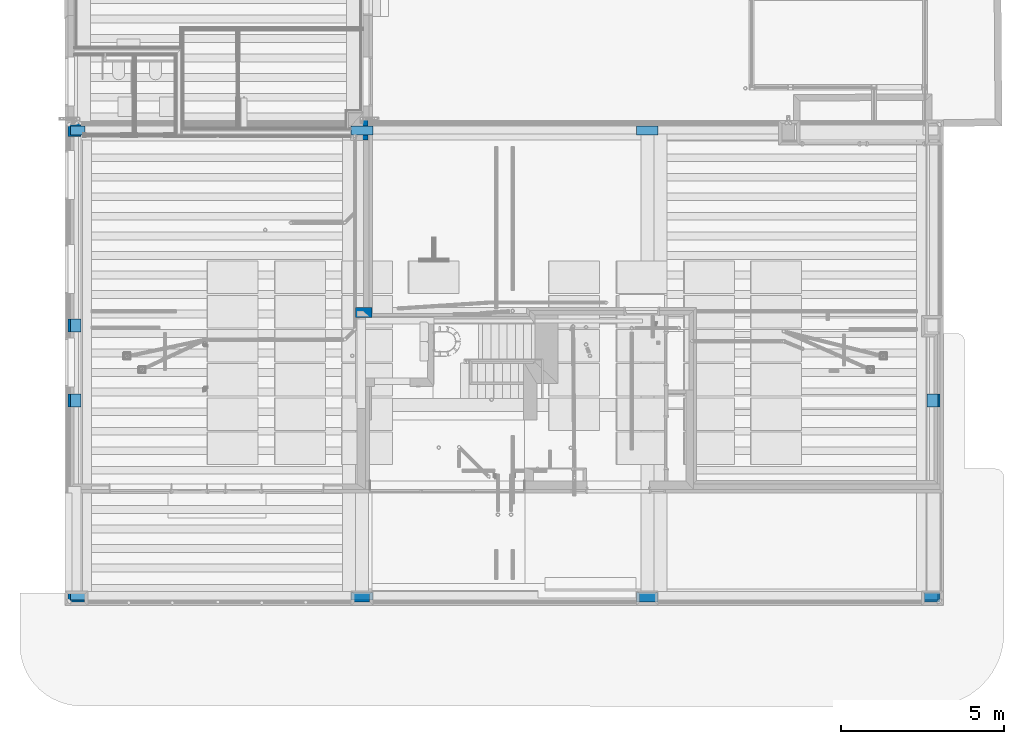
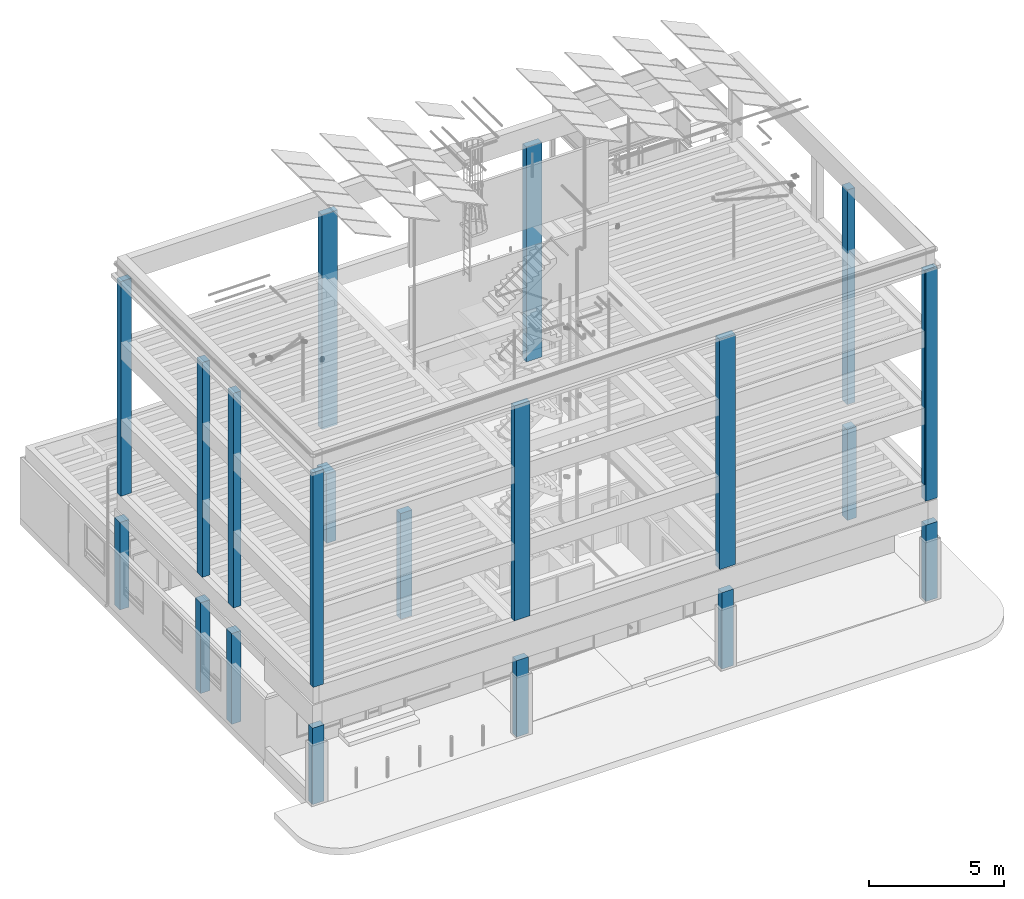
# One storey, part 1 of 106: 21 columns.
"""IFC2X3 building model written with IfcOpenShell, lengths in metres."""

from ifc_helpers import new_model, entity, si_unit, converted_unit, derived_unit, money_unit, direction, frame, frame_2d, origin_with_axes, place, context, subcontext, project, spatial, rectangle, extrude, material, type_object, element, save


model = new_model("IFC2X3")

# Units and contexts
model_context = context("Model", 3, precision=1e-05, world=origin_with_axes(), true_north=direction((0.0, 1.0)))
body_context = subcontext(model_context, "Body", "Model", "MODEL_VIEW", scale=1.0)
ifc_project = project(units=[si_unit("LENGTHUNIT", "METRE"), si_unit("AREAUNIT", "SQUARE_METRE"), si_unit("VOLUMEUNIT", "CUBIC_METRE"), si_unit("ABSORBEDDOSEUNIT", "GRAY"), si_unit("AMOUNTOFSUBSTANCEUNIT", "MOLE"), si_unit("DOSEEQUIVALENTUNIT", "SIEVERT"), si_unit("ELECTRICCAPACITANCEUNIT", "FARAD"), si_unit("ELECTRICCHARGEUNIT", "COULOMB"), si_unit("ELECTRICCONDUCTANCEUNIT", "SIEMENS"), si_unit("ELECTRICCURRENTUNIT", "AMPERE"), si_unit("ELECTRICRESISTANCEUNIT", "OHM"), si_unit("ELECTRICVOLTAGEUNIT", "VOLT"), si_unit("ENERGYUNIT", "JOULE"), si_unit("FORCEUNIT", "NEWTON"), si_unit("FREQUENCYUNIT", "HERTZ"), si_unit("ILLUMINANCEUNIT", "LUX"), si_unit("INDUCTANCEUNIT", "HENRY"), si_unit("LUMINOUSFLUXUNIT", "LUMEN"), si_unit("LUMINOUSINTENSITYUNIT", "CANDELA"), si_unit("MAGNETICFLUXDENSITYUNIT", "TESLA"), si_unit("MAGNETICFLUXUNIT", "WEBER"), si_unit("MASSUNIT", "GRAM"), converted_unit("PLANEANGLEUNIT", "degree", entity("IfcReal", 0.0174532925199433), si_unit("PLANEANGLEUNIT", "RADIAN"), dimensions=[0, 0, 0, 0, 0, 0, 0]), si_unit("POWERUNIT", "WATT"), si_unit("PRESSUREUNIT", "PASCAL"), si_unit("RADIOACTIVITYUNIT", "BECQUEREL"), si_unit("SOLIDANGLEUNIT", "STERADIAN"), si_unit("THERMODYNAMICTEMPERATUREUNIT", "KELVIN"), si_unit("TIMEUNIT", "SECOND"), derived_unit("ACCELERATIONUNIT", [(si_unit("LENGTHUNIT", "METRE"), 1), (si_unit("TIMEUNIT", "SECOND"), -2)]), derived_unit("ANGULARVELOCITYUNIT", [(converted_unit("PLANEANGLEUNIT", "degree", entity("IfcReal", 0.0174532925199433), si_unit("PLANEANGLEUNIT", "RADIAN"), dimensions=[0, 0, 0, 0, 0, 0, 0]), 1), (si_unit("TIMEUNIT", "SECOND"), -1)]), derived_unit("CURVATUREUNIT", [(converted_unit("PLANEANGLEUNIT", "degree", entity("IfcReal", 0.0174532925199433), si_unit("PLANEANGLEUNIT", "RADIAN"), dimensions=[0, 0, 0, 0, 0, 0, 0]), 1), (si_unit("LENGTHUNIT", "METRE"), -1)]), derived_unit("DYNAMICVISCOSITYUNIT", [(si_unit("PRESSUREUNIT", "PASCAL"), 1), (si_unit("TIMEUNIT", "SECOND"), 1)]), derived_unit("HEATFLUXDENSITYUNIT", [(si_unit("POWERUNIT", "WATT"), 1), (si_unit("LENGTHUNIT", "METRE"), -2)]), derived_unit("HEATINGVALUEUNIT", [(si_unit("ENERGYUNIT", "JOULE"), 1), (si_unit("MASSUNIT", "GRAM"), -1)]), derived_unit("INTEGERCOUNTRATEUNIT", [(si_unit("TIMEUNIT", "SECOND"), -1)]), derived_unit("IONCONCENTRATIONUNIT", [(si_unit("MASSUNIT", "GRAM"), 1), (si_unit("VOLUMEUNIT", "CUBIC_METRE"), -1)]), derived_unit("ISOTHERMALMOISTURECAPACITYUNIT", [(si_unit("VOLUMEUNIT", "CUBIC_METRE"), 1), (si_unit("MASSUNIT", "GRAM"), -1)]), derived_unit("KINEMATICVISCOSITYUNIT", [(si_unit("AREAUNIT", "SQUARE_METRE"), 1), (si_unit("TIMEUNIT", "SECOND"), -1)]), derived_unit("LINEARFORCEUNIT", [(si_unit("FORCEUNIT", "NEWTON"), 1), (si_unit("LENGTHUNIT", "METRE"), -1)]), derived_unit("LINEARMOMENTUNIT", [(si_unit("FORCEUNIT", "NEWTON"), 1), (si_unit("LENGTHUNIT", "METRE"), -1)]), derived_unit("LINEARSTIFFNESSUNIT", [(si_unit("FORCEUNIT", "NEWTON"), 1), (si_unit("LENGTHUNIT", "METRE"), -1)]), derived_unit("LINEARVELOCITYUNIT", [(si_unit("LENGTHUNIT", "METRE"), 1), (si_unit("TIMEUNIT", "SECOND"), -1)]), derived_unit("LUMINOUSINTENSITYDISTRIBUTIONUNIT", [(si_unit("LUMINOUSINTENSITYUNIT", "CANDELA"), 1), (si_unit("LUMINOUSFLUXUNIT", "LUMEN"), -1)]), derived_unit("MASSDENSITYUNIT", [(si_unit("MASSUNIT", "GRAM"), 1), (si_unit("VOLUMEUNIT", "CUBIC_METRE"), -1)]), derived_unit("MASSFLOWRATEUNIT", [(si_unit("MASSUNIT", "GRAM"), 1), (si_unit("TIMEUNIT", "SECOND"), -1)]), derived_unit("MASSPERLENGTHUNIT", [(si_unit("MASSUNIT", "GRAM"), 1), (si_unit("LENGTHUNIT", "METRE"), -1)]), derived_unit("MODULUSOFELASTICITYUNIT", [(si_unit("FORCEUNIT", "NEWTON"), 1), (si_unit("AREAUNIT", "SQUARE_METRE"), -1)]), derived_unit("MODULUSOFLINEARSUBGRADEREACTIONUNIT", [(si_unit("FORCEUNIT", "NEWTON"), 1), (si_unit("LENGTHUNIT", "METRE"), -2)]), derived_unit("MODULUSOFROTATIONALSUBGRADEREACTIONUNIT", [(si_unit("FORCEUNIT", "NEWTON"), 1), (si_unit("LENGTHUNIT", "METRE"), 1)]), derived_unit("MODULUSOFSUBGRADEREACTIONUNIT", [(si_unit("FORCEUNIT", "NEWTON"), 1), (si_unit("VOLUMEUNIT", "CUBIC_METRE"), -1)]), derived_unit("MOISTUREDIFFUSIVITYUNIT", [(si_unit("VOLUMEUNIT", "CUBIC_METRE"), 1), (si_unit("TIMEUNIT", "SECOND"), -1)]), derived_unit("MOLECULARWEIGHTUNIT", [(si_unit("MASSUNIT", "GRAM"), 1), (si_unit("AMOUNTOFSUBSTANCEUNIT", "MOLE"), -1)]), derived_unit("PLANARFORCEUNIT", [(si_unit("FORCEUNIT", "NEWTON"), 1), (si_unit("LENGTHUNIT", "METRE"), -2)]), derived_unit("ROTATIONALFREQUENCYUNIT", [(si_unit("TIMEUNIT", "SECOND"), -1)]), derived_unit("ROTATIONALMASSUNIT", [(si_unit("MASSUNIT", "GRAM"), 1), (si_unit("LENGTHUNIT", "METRE"), 2)]), derived_unit("ROTATIONALSTIFFNESSUNIT", [(si_unit("FORCEUNIT", "NEWTON"), 1), (si_unit("LENGTHUNIT", "METRE"), 1), (converted_unit("PLANEANGLEUNIT", "degree", entity("IfcReal", 0.0174532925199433), si_unit("PLANEANGLEUNIT", "RADIAN"), dimensions=[0, 0, 0, 0, 0, 0, 0]), -1)]), derived_unit("SECTIONAREAINTEGRALUNIT", [(si_unit("LENGTHUNIT", "METRE"), 5)]), derived_unit("SECTIONMODULUSUNIT", [(si_unit("LENGTHUNIT", "METRE"), 3)]), derived_unit("SHEARMODULUSUNIT", [(si_unit("FORCEUNIT", "NEWTON"), 1), (si_unit("AREAUNIT", "SQUARE_METRE"), -1)]), derived_unit("SOUNDPOWERUNIT", [(si_unit("ENERGYUNIT", "JOULE"), 1), (si_unit("TIMEUNIT", "SECOND"), -1)]), derived_unit("SPECIFICHEATCAPACITYUNIT", [(si_unit("FORCEUNIT", "NEWTON"), 1), (si_unit("MASSUNIT", "GRAM"), -1), (si_unit("THERMODYNAMICTEMPERATUREUNIT", "KELVIN"), -1)]), derived_unit("TEMPERATUREGRADIENTUNIT", [(si_unit("THERMODYNAMICTEMPERATUREUNIT", "KELVIN"), 1), (si_unit("LENGTHUNIT", "METRE"), -1)]), derived_unit("THERMALADMITTANCEUNIT", [(si_unit("POWERUNIT", "WATT"), 1), (si_unit("AREAUNIT", "SQUARE_METRE"), -1), (si_unit("THERMODYNAMICTEMPERATUREUNIT", "KELVIN"), -1)]), derived_unit("THERMALCONDUCTANCEUNIT", [(si_unit("POWERUNIT", "WATT"), 1), (si_unit("LENGTHUNIT", "METRE"), -1), (si_unit("THERMODYNAMICTEMPERATUREUNIT", "KELVIN"), -1)]), derived_unit("THERMALEXPANSIONCOEFFICIENTUNIT", [(si_unit("THERMODYNAMICTEMPERATUREUNIT", "KELVIN"), -1)]), derived_unit("THERMALRESISTANCEUNIT", [(si_unit("AREAUNIT", "SQUARE_METRE"), 1), (si_unit("POWERUNIT", "WATT"), -1)]), derived_unit("THERMALTRANSMITTANCEUNIT", [(si_unit("POWERUNIT", "WATT"), 1), (si_unit("AREAUNIT", "SQUARE_METRE"), -1), (si_unit("THERMODYNAMICTEMPERATUREUNIT", "KELVIN"), -1)]), derived_unit("TORQUEUNIT", [(si_unit("FORCEUNIT", "NEWTON"), 1), (si_unit("LENGTHUNIT", "METRE"), 1)]), derived_unit("VAPORPERMEABILITYUNIT", [(si_unit("MASSUNIT", "GRAM"), 1), (si_unit("TIMEUNIT", "SECOND"), -1)]), derived_unit("VOLUMETRICFLOWRATEUNIT", [(si_unit("VOLUMEUNIT", "CUBIC_METRE"), 1), (si_unit("TIMEUNIT", "SECOND"), -1)]), derived_unit("WARPINGCONSTANTUNIT", [(si_unit("LENGTHUNIT", "METRE"), 6)]), derived_unit("WARPINGMOMENTUNIT", [(si_unit("FORCEUNIT", "NEWTON"), 1), (si_unit("LENGTHUNIT", "METRE"), 2)]), money_unit("GBP")], contexts=[model_context])

# Site, building, storey
site_placement = place(None, origin_with_axes())
site = spatial("IfcSite", under=ifc_project, at=site_placement, Name="Site", CompositionType="ELEMENT")
building_placement = place(site_placement, origin_with_axes())
building = spatial("IfcBuilding", under=site, at=building_placement, Name="Building01", CompositionType="ELEMENT")
storey_placement = place(building_placement, origin_with_axes())
storey = spatial("IfcBuildingStorey", under=building, at=storey_placement, Name="GF", CompositionType="ELEMENT", Elevation=0.0)

# Columns
ifc_material = material(Name="A_BSUK_Columns_ReinforcedConcrete")
column_type_1 = type_object("IfcColumnType", Name="A-Columns-Concrete", PredefinedType="COLUMN")
column_1_placement = place(storey_placement, frame((0.1, 8.4, -0.145), z_axis=(0.0, 0.0, 1.0), x_axis=(1.0, 0.0, 0.0)))
element("IfcColumn", 1, at=column_1_placement, inside=storey, type_object=column_type_1, material=ifc_material, Name="A-Columns-Concrete", ObjectType="A-Columns-Concrete", context=body_context, shape_type="SweptSolid", body=[
    extrude(rectangle(XDim=0.4, YDim=0.4, at=frame_2d((0.2, 0.2), x_axis=(0.0, 1.0))), origin_with_axes(), (0.0, 0.0, 1.0), 4.115),
])
column_2_placement = place(storey_placement, frame((0.62, 14.45, 14.83), z_axis=(0.0, 0.0, -1.0), x_axis=(0.0, 1.0, 0.0)))
element("IfcColumn", 2, at=column_2_placement, inside=storey, type_object=column_type_1, material=ifc_material, Name="A-Columns-Concrete", ObjectType="A-Columns-Concrete", context=body_context, shape_type="SweptSolid", body=[
    extrude(rectangle(XDim=0.45, YDim=0.28, at=frame_2d((0.14, -0.225), x_axis=(0.0, -1.0))), origin_with_axes(), (0.0, 0.0, 1.0), 9.73),
])
for number, where, z_axis, x_axis, name in (
    (3, (0.1, 6.1, -0.145), (0.0, 0.0, 1.0), (1.0, 0.0, 0.0), "A-Columns-Concrete"),
    (4, (26.48, 6.1, -0.145), (0.0, 0.0, 1.0), (1.0, 0.0, 0.0), "A-Columns-Concrete"),
):
    element("IfcColumn", number, at=place(storey_placement, frame(where, z_axis=z_axis, x_axis=x_axis)), inside=storey, type_object=column_type_1, material=ifc_material, Name=name, ObjectType="A-Columns-Concrete", context=body_context, shape_type="SweptSolid", body=[
        extrude(rectangle(XDim=0.4, YDim=0.4, at=frame_2d((0.2, 0.2), x_axis=(0.0, 1.0))), origin_with_axes(), (0.0, 0.0, 1.0), 4.115),
    ])
column_3_placement = place(storey_placement, frame((0.6, 0.1, 3.32), z_axis=(0.0, 0.0, -1.0), x_axis=(0.0, 1.0, 0.0)))
element("IfcColumn", 5, at=column_3_placement, inside=storey, type_object=column_type_1, material=ifc_material, Name="A-Columns-Concrete", ObjectType="A-Columns-Concrete", context=body_context, shape_type="SweptSolid", body=[
    extrude(rectangle(XDim=0.5, YDim=0.3, at=frame_2d((0.15, -0.25), x_axis=(0.0, -1.0))), origin_with_axes(), (0.0, 0.0, 1.0), 3.465),
])
for number, where, z_axis, x_axis, name in (
    (6, (9.46, 14.73, 5.1), (0.0, 0.0, 1.0), (-1.0, 0.0, 0.0), "A-Columns-Concrete"),
    (7, (18.22, 14.73, 5.1), (0.0, 0.0, 1.0), (-1.0, 0.0, 0.0), "A-Columns-Concrete"),
):
    element("IfcColumn", number, at=place(storey_placement, frame(where, z_axis=z_axis, x_axis=x_axis)), inside=storey, type_object=column_type_1, material=ifc_material, Name=name, ObjectType="A-Columns-Concrete", context=body_context, shape_type="SweptSolid", body=[
        extrude(rectangle(XDim=0.28, YDim=0.67, at=frame_2d((0.335, 0.14), x_axis=(0.0, 1.0))), origin_with_axes(), (0.0, 0.0, 1.0), 9.73),
    ])
for number, where, z_axis, x_axis, name in (
    (8, (18.15, 0.1, 3.32), (0.0, 0.0, -1.0), (0.0, 1.0, 0.0), "A-Columns-Concrete"),
    (9, (9.35, 0.1, 3.32), (0.0, 0.0, -1.0), (0.0, 1.0, 0.0), "A-Columns-Concrete"),
    (10, (26.88, 0.1, 3.32), (0.0, 0.0, -1.0), (0.0, 1.0, 0.0), "A-Columns-Concrete"),
):
    element("IfcColumn", number, at=place(storey_placement, frame(where, z_axis=z_axis, x_axis=x_axis)), inside=storey, type_object=column_type_1, material=ifc_material, Name=name, ObjectType="A-Columns-Concrete", context=body_context, shape_type="SweptSolid", body=[
        extrude(rectangle(XDim=0.5, YDim=0.3, at=frame_2d((0.15, -0.25), x_axis=(0.0, -1.0))), origin_with_axes(), (0.0, 0.0, 1.0), 3.465),
    ])
column_4_placement = place(storey_placement, frame((8.903038, 14.299999, 0.0), z_axis=(0.0, 0.0, 1.0), x_axis=(1.0, 0.0, 0.0)))
element("IfcColumn", 11, at=column_4_placement, inside=storey, type_object=column_type_1, material=ifc_material, Name="A-Columns-Concrete", ObjectType="A-Columns-Concrete", context=body_context, shape_type="SweptSolid", body=[
    extrude(rectangle(XDim=0.7, YDim=0.4, at=frame_2d((0.2, 0.35), x_axis=(0.0, 1.0))), origin_with_axes(), (0.0, 0.0, 1.0), 3.135),
])
column_5_placement = place(storey_placement, frame((0.1, 14.4, 0.0), z_axis=(0.0, 0.0, 1.0), x_axis=(1.0, 0.0, 0.0)))
element("IfcColumn", 12, at=column_5_placement, inside=storey, type_object=column_type_1, material=ifc_material, Name="A-Columns-Concrete", ObjectType="A-Columns-Concrete", context=body_context, shape_type="SweptSolid", body=[
    extrude(rectangle(XDim=0.4, YDim=0.4, at=frame_2d((0.2, 0.2), x_axis=(0.0, 1.0))), origin_with_axes(), (0.0, 0.0, 1.0), 3.97),
])
column_6_placement = place(storey_placement, frame((26.48, 6.1, 5.1), z_axis=(0.0, 0.0, 1.0), x_axis=(1.0, 0.0, 0.0)))
element("IfcColumn", 13, at=column_6_placement, inside=storey, type_object=column_type_1, material=ifc_material, Name="A-Columns-Concrete", ObjectType="A-Columns-Concrete", context=body_context, shape_type="SweptSolid", body=[
    extrude(rectangle(XDim=0.4, YDim=0.33, at=frame_2d((0.165, 0.2), x_axis=(0.0, 1.0))), origin_with_axes(), (0.0, 0.0, 1.0), 9.73),
])
column_7_placement = place(storey_placement, frame((8.925, 9.147854, -0.145), z_axis=(0.0, 0.0, 1.0), x_axis=(0.0, -1.0, 0.0)))
element("IfcColumn", 14, at=column_7_placement, inside=storey, type_object=column_type_1, material=ifc_material, Name="A-Columns-Concrete", ObjectType="A-Columns-Concrete", context=body_context, shape_type="SweptSolid", body=[
    extrude(rectangle(XDim=0.5, YDim=0.3, at=frame_2d((0.15, 0.25), x_axis=(0.0, 1.0))), origin_with_axes(), (0.0, 0.0, 1.0), 4.795),
])
for number, where, z_axis, x_axis, name in (
    (15, (0.17, 8.4, 5.1), (0.0, 0.0, 1.0), (1.0, 0.0, 0.0), "A-Columns-Concrete"),
    (16, (0.17, 6.1, 5.1), (0.0, 0.0, 1.0), (1.0, 0.0, 0.0), "A-Columns-Concrete"),
):
    element("IfcColumn", number, at=place(storey_placement, frame(where, z_axis=z_axis, x_axis=x_axis)), inside=storey, type_object=column_type_1, material=ifc_material, Name=name, ObjectType="A-Columns-Concrete", context=body_context, shape_type="SweptSolid", body=[
        extrude(rectangle(XDim=0.4, YDim=0.33, at=frame_2d((0.165, 0.2), x_axis=(0.0, 1.0))), origin_with_axes(), (0.0, 0.0, 1.0), 9.73),
    ])
column_8_placement = place(storey_placement, frame((0.62, 0.17, 14.83), z_axis=(0.0, 0.0, -1.0), x_axis=(0.0, 1.0, 0.0)))
element("IfcColumn", 17, at=column_8_placement, inside=storey, type_object=column_type_1, material=ifc_material, Name="A-Columns-Concrete", ObjectType="A-Columns-Concrete", context=body_context, shape_type="SweptSolid", body=[
    extrude(rectangle(XDim=0.45, YDim=0.23, at=frame_2d((0.115, -0.225), x_axis=(0.0, -1.0))), origin_with_axes(), (0.0, 0.0, 1.0), 9.73),
])
column_9_placement = place(storey_placement, frame((9.46, 0.4, 5.1), z_axis=(0.0, 0.0, 1.0), x_axis=(-1.0, 0.0, 0.0)))
element("IfcColumn", 18, at=column_9_placement, inside=storey, type_object=column_type_1, material=ifc_material, Name="A-Columns-Concrete", ObjectType="A-Columns-Concrete", context=body_context, shape_type="SweptSolid", body=[
    extrude(rectangle(XDim=0.23, YDim=0.67, at=frame_2d((0.335, 0.115), x_axis=(0.0, 1.0))), origin_with_axes(), (0.0, 0.0, 1.0), 9.73),
])
column_10_placement = place(storey_placement, frame((26.81, 0.17, 14.83), z_axis=(0.0, 0.0, -1.0), x_axis=(0.0, 1.0, 0.0)))
element("IfcColumn", 19, at=column_10_placement, inside=storey, type_object=column_type_1, material=ifc_material, Name="A-Columns-Concrete", ObjectType="A-Columns-Concrete", context=body_context, shape_type="SweptSolid", body=[
    extrude(rectangle(XDim=0.45, YDim=0.23, at=frame_2d((0.115, -0.225), x_axis=(0.0, -1.0))), origin_with_axes(), (0.0, 0.0, 1.0), 9.73),
])
column_type_2 = type_object("IfcColumnType", Name="A-Columns:A_BSUK_Columns_ReinforcedConcrete", PredefinedType="NOTDEFINED")
column_11_placement = place(storey_placement, frame((18.22, 0.4, 4.4), z_axis=(0.0, 0.0, 1.0), x_axis=(-1.0, 0.0, 0.0)))
element("IfcColumn", 20, at=column_11_placement, inside=storey, type_object=column_type_2, material=ifc_material, Name="A-Columns--A_BSUK_Columns_ReinforcedConcrete", ObjectType="A-Columns:A_BSUK_Columns_ReinforcedConcrete", context=body_context, shape_type="SweptSolid", body=[
    extrude(rectangle(XDim=0.3, YDim=0.67, at=frame_2d((0.335, 0.15), x_axis=(0.0, 1.0))), origin_with_axes(), (0.0, 0.0, 1.0), 10.43),
])
column_12_placement = place(storey_placement, frame((26.88, 0.1, 14.83), z_axis=(0.0, 0.0, -1.0), x_axis=(0.0, 1.0, 0.0)))
element("IfcColumn", 21, at=column_12_placement, inside=storey, type_object=column_type_2, material=ifc_material, Name="A-Columns--A_BSUK_Columns_ReinforcedConcrete", ObjectType="A-Columns:A_BSUK_Columns_ReinforcedConcrete", context=body_context, shape_type="SweptSolid", body=[
    extrude(rectangle(XDim=0.5, YDim=0.3, at=frame_2d((0.15, -0.25), x_axis=(0.0, -1.0))), origin_with_axes(), (0.0, 0.0, 1.0), 10.43),
])

save(model, "model.ifc")
